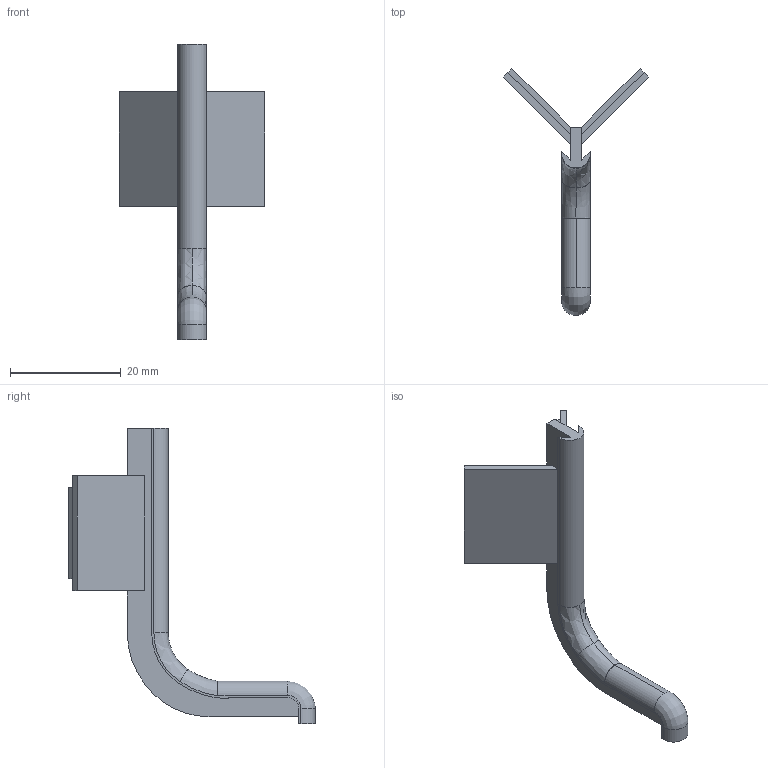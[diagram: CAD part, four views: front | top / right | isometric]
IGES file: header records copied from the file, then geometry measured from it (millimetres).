
Start section: Data from Parasolid IGES Translator 15.0.47, Copyright(c) 2006 Siemens P LM Software. All Rights Reserved.
Global section: file name: 9210122.igs; native system:  By UGS Corp.; preprocessor: XPlus GENERIC/IGES 3.0; author: Noname; organization: Noname; date: 20160315.183323; units: millimetre
Bounding box: 26.32 x 44.61 x 53.5 mm (x, y, z)
Surface area: 3486.8 mm2 (no closed solid volume)
Topology: 0 solids, 0 shells, 60 faces, 340 edges, 340 vertices
Faces by surface type: extrusion 43, revolution 17
